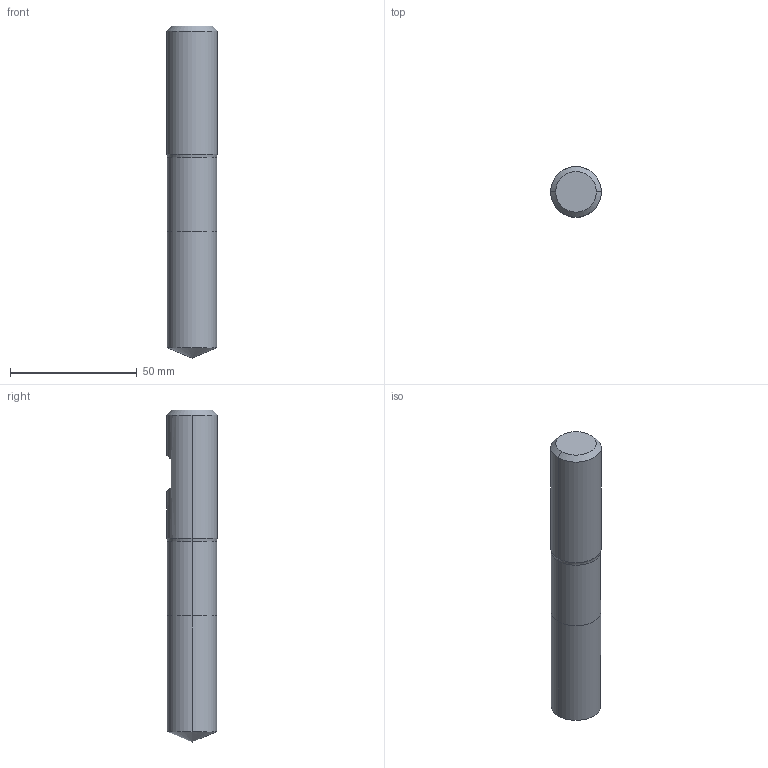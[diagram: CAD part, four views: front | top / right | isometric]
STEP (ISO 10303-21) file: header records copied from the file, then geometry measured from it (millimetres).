
FILE_DESCRIPTION (( 'STEP AP214' ), '1' );
FILE_NAME ('843.195.10_3D-model.step', '2022-02-24T03:36:29', ( '' ), ( '' ), 'SwSTEP 2.0', 'SolidWorks 2020', '' );
FILE_SCHEMA (( 'AUTOMOTIVE_DESIGN' ));
Length unit declared in the file: millimetre
Products named in the file (3): 843.195.10_3D-model; NOCUT-3D^Baugr117; CUT-3D^Baugr117
Assembly tree (2 placements, depth 2):
  843.195.10_3D-model
    CUT-3D^Baugr117
    NOCUT-3D^Baugr117
Bounding box: 20 x 20 x 131 mm (x, y, z)
Volume: 38819.3 mm3; surface area: 9018.2 mm2
Topology: 2 solids, 2 shells, 18 faces, 34 edges, 19 vertices
Faces by surface type: cylinder 6, plane 6, cone 4, torus 2
Entity records: 558 total; most frequent: DIRECTION 98, CARTESIAN_POINT 83, ORIENTED_EDGE 64, AXIS2_PLACEMENT_3D 42, EDGE_CURVE 32, EDGE_LOOP 19, VERTEX_POINT 19, ADVANCED_FACE 18
